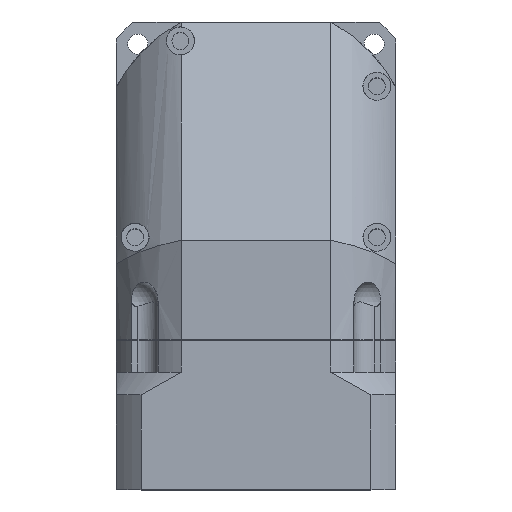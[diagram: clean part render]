
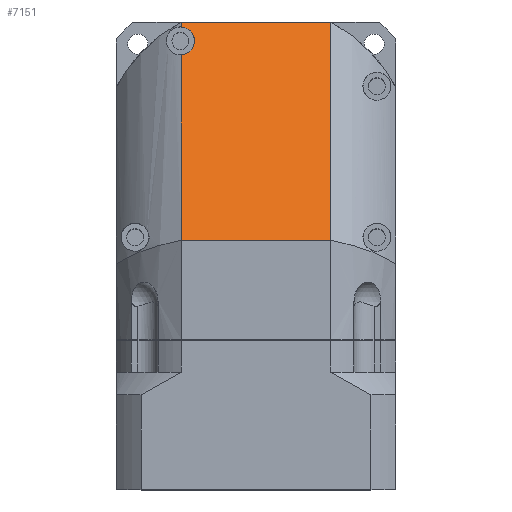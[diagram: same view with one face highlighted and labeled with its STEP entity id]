
A CAD part, top view. The second image highlights one B-rep face of the part: STEP entity #7151.
In plain terms, the highlighted planar face has unit normal (0, 0.643, 0.766) as drawn and (-0.766, -0.643, 0) by its records, which use the part's own axes.
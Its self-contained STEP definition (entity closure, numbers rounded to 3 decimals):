
#2147=DIRECTION('',(0.,0.,-1.));
#2148=VECTOR('',#2147,96.);
#2149=CARTESIAN_POINT('',(28.,-90.,48.));
#2150=LINE('',#2149,#2148);
#2512=CARTESIAN_POINT('',(28.,-90.,48.));
#3209=DIRECTION('',(0.,0.,1.));
#3210=VECTOR('',#3209,96.);
#3211=CARTESIAN_POINT('',(-90.,50.627,-48.));
#3212=LINE('',#3211,#3210);
#3213=CARTESIAN_POINT('',(10.236,-68.83,48.));
#3214=CARTESIAN_POINT('',(10.256,-68.853,47.661));
#3215=CARTESIAN_POINT('',(10.295,-68.9,47.326));
#3216=CARTESIAN_POINT('',(10.373,-68.993,46.768));
#3217=CARTESIAN_POINT('',(10.472,-69.11,46.292));
#3218=CARTESIAN_POINT('',(10.589,-69.251,45.821));
#3219=CARTESIAN_POINT('',(10.746,-69.438,45.296));
#3220=CARTESIAN_POINT('',(10.942,-69.672,44.756));
#3221=CARTESIAN_POINT('',(11.178,-69.952,44.217));
#3222=CARTESIAN_POINT('',(11.413,-70.233,43.752));
#3223=CARTESIAN_POINT('',(11.727,-70.607,43.206));
#3224=CARTESIAN_POINT('',(12.12,-71.074,42.629));
#3225=CARTESIAN_POINT('',(12.59,-71.636,42.056));
#3226=CARTESIAN_POINT('',(13.061,-72.197,41.572));
#3227=CARTESIAN_POINT('',(13.532,-72.758,41.16));
#3228=CARTESIAN_POINT('',(14.16,-73.506,40.694));
#3229=CARTESIAN_POINT('',(14.945,-74.441,40.245));
#3230=CARTESIAN_POINT('',(15.887,-75.564,39.879));
#3231=CARTESIAN_POINT('',(16.828,-76.686,39.667));
#3232=CARTESIAN_POINT('',(17.77,-77.808,39.597));
#3233=CARTESIAN_POINT('',(18.712,-78.931,39.667));
#3234=CARTESIAN_POINT('',(19.654,-80.053,39.879));
#3235=CARTESIAN_POINT('',(20.595,-81.175,40.245));
#3236=CARTESIAN_POINT('',(21.38,-82.111,40.694));
#3237=CARTESIAN_POINT('',(22.008,-82.859,41.16));
#3238=CARTESIAN_POINT('',(22.479,-83.42,41.572));
#3239=CARTESIAN_POINT('',(22.95,-83.981,42.056));
#3240=CARTESIAN_POINT('',(23.421,-84.542,42.629));
#3241=CARTESIAN_POINT('',(23.813,-85.01,43.206));
#3242=CARTESIAN_POINT('',(24.127,-85.384,43.752));
#3243=CARTESIAN_POINT('',(24.362,-85.665,44.217));
#3244=CARTESIAN_POINT('',(24.598,-85.945,44.756));
#3245=CARTESIAN_POINT('',(24.794,-86.179,45.296));
#3246=CARTESIAN_POINT('',(24.951,-86.366,45.821));
#3247=CARTESIAN_POINT('',(25.069,-86.506,46.292));
#3248=CARTESIAN_POINT('',(25.167,-86.623,46.768));
#3249=CARTESIAN_POINT('',(25.245,-86.717,47.326));
#3250=CARTESIAN_POINT('',(25.284,-86.764,47.661));
#3251=CARTESIAN_POINT('',(25.304,-86.787,48.));
#3253=DIRECTION('',(0.643,-0.766,0.));
#3254=VECTOR('',#3253,4.194);
#3255=CARTESIAN_POINT('',(25.304,-86.787,48.));
#3256=LINE('',#3255,#3254);
#3257=DIRECTION('',(-0.643,0.766,0.));
#3258=VECTOR('',#3257,183.575);
#3259=CARTESIAN_POINT('',(28.,-90.,-48.));
#3260=LINE('',#3259,#3258);
#3261=DIRECTION('',(0.643,-0.766,0.));
#3262=VECTOR('',#3261,155.94);
#3263=CARTESIAN_POINT('',(-90.,50.627,48.));
#3264=LINE('',#3263,#3262);
#3335=CARTESIAN_POINT('',(-90.,50.627,48.));
#5558=VERTEX_POINT('',#3213);
#5559=VERTEX_POINT('',#3251);
#5600=VERTEX_POINT('',#3335);
#5601=VERTEX_POINT('',#2512);
#5606=CARTESIAN_POINT('',(28.,-90.,-48.));
#5607=CARTESIAN_POINT('',(-90.,50.627,-48.));
#5608=VERTEX_POINT('',#5606);
#5609=VERTEX_POINT('',#5607);
#7134=CARTESIAN_POINT('',(28.,-90.,129.));
#7135=DIRECTION('',(0.766,0.643,0.));
#7136=DIRECTION('',(-0.643,0.766,0.));
#7137=AXIS2_PLACEMENT_3D('',#7134,#7135,#7136);
#7138=PLANE('',#7137);
#7140=ORIENTED_EDGE('',*,*,#7139,.T.);
#7142=ORIENTED_EDGE('',*,*,#7141,.T.);
#7143=ORIENTED_EDGE('',*,*,#5689,.T.);
#7145=ORIENTED_EDGE('',*,*,#7144,.T.);
#7146=ORIENTED_EDGE('',*,*,#7129,.T.);
#7148=ORIENTED_EDGE('',*,*,#7147,.T.);
#7149=EDGE_LOOP('',(#7140,#7142,#7143,#7145,#7146,#7148));
#7150=FACE_OUTER_BOUND('',#7149,.F.);
#7151=ADVANCED_FACE('',(#7150),#7138,.F.);
#3252=B_SPLINE_CURVE_WITH_KNOTS('',3,(#3213,#3214,#3215,#3216,#3217,#3218,#3219,
#3220,#3221,#3222,#3223,#3224,#3225,#3226,#3227,#3228,#3229,#3230,#3231,#3232,
#3233,#3234,#3235,#3236,#3237,#3238,#3239,#3240,#3241,#3242,#3243,#3244,#3245,
#3246,#3247,#3248,#3249,#3250,#3251),.UNSPECIFIED.,.F.,.F.,(4,1,1,1,1,1,1,1,1,1,
1,1,1,1,1,1,1,1,1,1,1,1,1,1,1,1,1,1,1,1,1,1,1,1,1,1,4),(0.,0.004,
0.008,0.016,0.023,0.031,0.047,0.063,0.078,0.094,
0.125,0.156,0.188,0.219,0.25,0.313,0.375,0.438,0.5,
0.563,0.625,0.688,0.75,0.781,0.813,0.844,0.875,0.906,
0.922,0.938,0.953,0.969,0.977,0.984,0.992,
0.996,1.),.UNSPECIFIED.);
#5689=EDGE_CURVE('',#5601,#5608,#2150,.T.);
#7129=EDGE_CURVE('',#5609,#5600,#3212,.T.);
#7139=EDGE_CURVE('',#5558,#5559,#3252,.T.);
#7141=EDGE_CURVE('',#5559,#5601,#3256,.T.);
#7144=EDGE_CURVE('',#5608,#5609,#3260,.T.);
#7147=EDGE_CURVE('',#5600,#5558,#3264,.T.);
